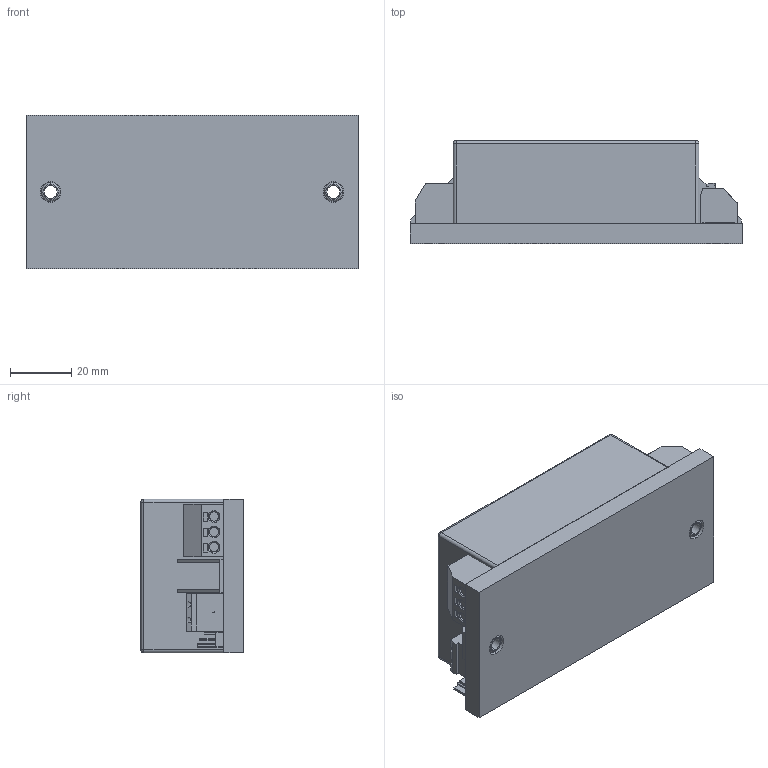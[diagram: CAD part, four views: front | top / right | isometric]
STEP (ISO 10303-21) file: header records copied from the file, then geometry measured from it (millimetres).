
FILE_DESCRIPTION (( 'STEP AP214' ), '1' );
FILE_NAME ('D-NM11-E.STEP', '2015-08-25T09:58:30', ( '' ), ( '' ), 'SwSTEP 2.0', 'SolidWorks 2015', '' );
FILE_SCHEMA (( 'AUTOMOTIVE_DESIGN' ));
Length unit declared in the file: millimetre
Products named in the file (47): Dummy-NM11-E; X5Dummy-NM11-E; 638343920; B10Dummy-NM11-E; 1755736; Extruded_6; Dummy-MOD-S03; mstbva_2.5-2-g-5.08; 642540728; X1Dummy-MOD-S03; BoardDummy-NM11-E; Cylinder; 739868576; Unterteil-gr; X1Dummy-NM11-E; Extruded_10; 253_103_2_03; 739871648; D-NM11-E; X3Dummy-NM11-E; Extruded_9; 250_204_2_03; SW3Dummy-MOD-S03; X2Dummy-NM11-E; SW2Dummy-MOD-S03; 633264656; SW1Dummy-MOD-S03; Extruded_5; S-2011A; 633264912; _Without_knob-Dial; Extruded_4; _S-2011A_body; 633264784; BoardDummy-MOD-S03; Extruded_3; X4Dummy-NM11-E; 633265040; 638343664; Extruded_2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
Assembly tree (102 placements, depth 7):
  D-NM11-E
    Unterteil-gr
    Dummy-NM11-E
      BoardDummy-NM11-E
      X5Dummy-NM11-E
        1755736
          mstbva_2.5-2-g-5.08
      X2Dummy-NM11-E
        633265168
          Extruded
        633265040
          Extruded_2
        633264784  x4
          Extruded_3
        633264912
          Extruded_4
        633264656  x4
          Extruded_5
      X3Dummy-NM11-E
        250_204_2_03
      X1Dummy-NM11-E
        253_103_2_03
      X4Dummy-NM11-E
        642540728  x4
          Cylinder
        638343920
          Extruded_6
        638343792
          Extruded_7
        638343664
          Extruded_8
      B10Dummy-NM11-E
        Dummy-MOD-S03
          BoardDummy-MOD-S03
          SW1Dummy-MOD-S03
            S-2011A
              _S-2011A_body
              _Without_knob-Dial
          SW2Dummy-MOD-S03
            S-2011A
              _S-2011A_body
              _Without_knob-Dial
          SW3Dummy-MOD-S03
            S-2011A
              _S-2011A_body
              _Without_knob-Dial
          X1Dummy-MOD-S03
            739871648
              Extruded_9
            739868576  x46
              Extruded_10
    Oberteil-gr-adr
    Aufkleber-75x45-NM11-E
Bounding box: 108 x 33.5 x 50 mm (x, y, z)
Volume: 40948 mm3; surface area: 64231.6 mm2
Topology: 79 solids, 79 shells, 2066 faces, 5273 edges, 3478 vertices
Faces by surface type: plane 1275, cylinder 743, cone 28, torus 12, bspline 4, sphere 4
Entity records: 43956 total; most frequent: CARTESIAN_POINT 6161, DIRECTION 6153, ORIENTED_EDGE 5750, EDGE_CURVE 2875, AXIS2_PLACEMENT_3D 2086, LINE 1981, VECTOR 1981, VERTEX_POINT 1886
